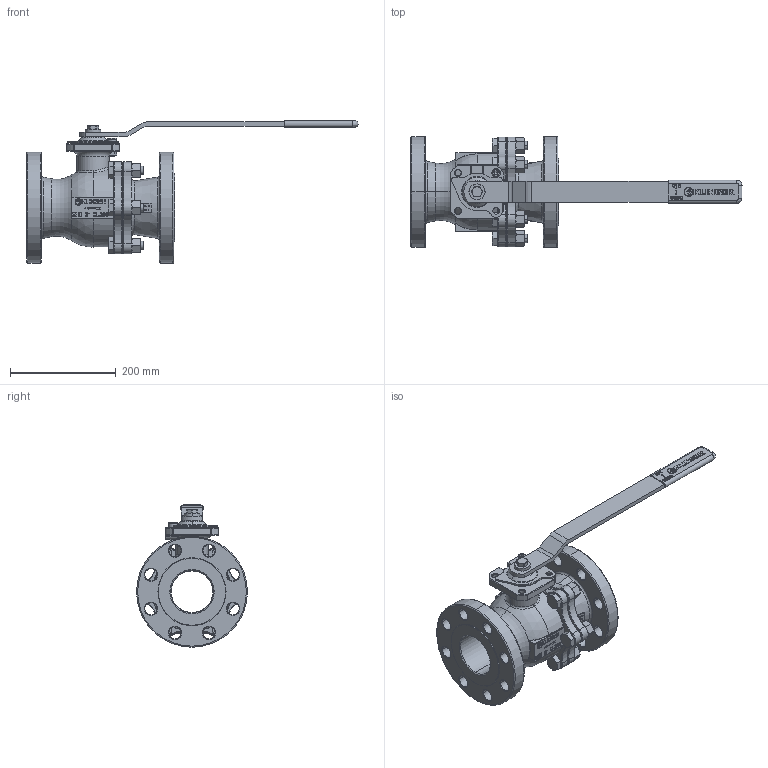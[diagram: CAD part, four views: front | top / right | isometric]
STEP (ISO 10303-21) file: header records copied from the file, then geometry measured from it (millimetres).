
FILE_DESCRIPTION((''),'2;1');
FILE_NAME('KHECL-3-C300_XC','2016-08-29T',('santag'),('RAND'),'PRO/ENGINEER BY PARAMETRIC TECHNOLOGY CORPORATION, 2016100','PRO/ENGINEER BY PARAMETRIC TECHNOLOGY CORPORATION, 2016100','');
FILE_SCHEMA(('CONFIG_CONTROL_DESIGN'));
Products named in the file (1): KHECL-3-C300_XC
Bounding box: 629 x 210 x 269.75 mm (x, y, z)
Volume: 3849424.4 mm3; surface area: 647668.6 mm2
Topology: 1 solids, 3 shells, 3080 faces, 8174 edges, 5231 vertices
Faces by surface type: plane 2072, cylinder 383, torus 307, cone 212, bspline 90, sphere 16
Entity records: 111800 total; most frequent: CARTESIAN_POINT 35247, ORIENTED_EDGE 16344, DIRECTION 15276, EDGE_CURVE 8172, VECTOR 5956, LINE 5956, VERTEX_POINT 5231, AXIS2_PLACEMENT_3D 4660
